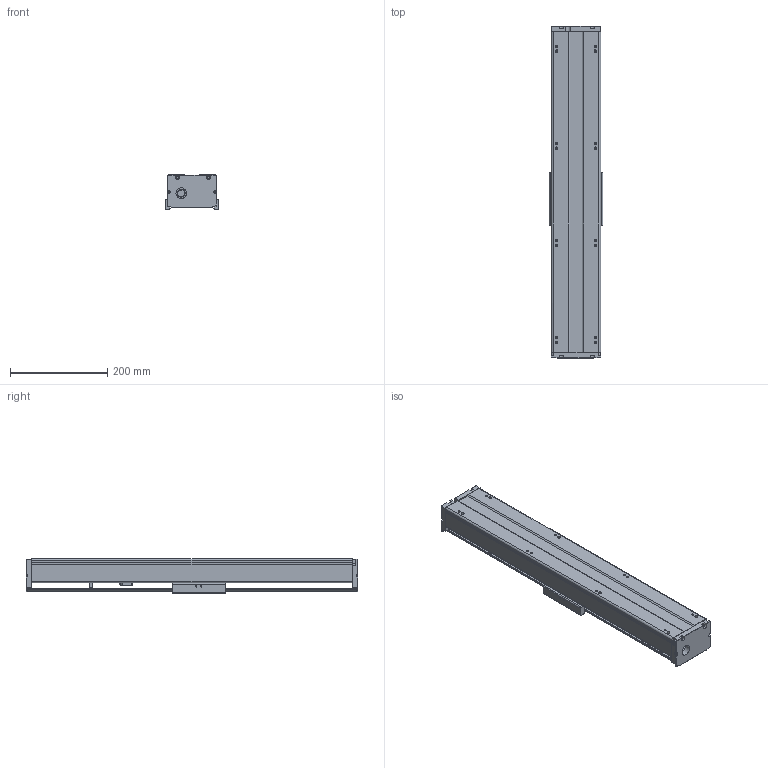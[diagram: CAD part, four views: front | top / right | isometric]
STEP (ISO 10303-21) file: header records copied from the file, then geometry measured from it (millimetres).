
FILE_DESCRIPTION(/* description */ (''),/* implementation_level */ '2;1');
FILE_NAME(/* name */ 'TKA100-300A1FI_asm1.stp',/* time_stamp */ '2017-02-21T08:22:09+08:00',/* author */ (''),/* organization */ (''),/* preprocessor_version */ 'ST-DEVELOPER v15',/* originating_system */ 'SIEMENS PLM Software NX 8.5',/* authorisation */ '');
FILE_SCHEMA (('AUTOMOTIVE_DESIGN { 1 0 10303 214 3 1 1 1 }'));
Length unit declared in the file: millimetre
Products named in the file (3): 200-02; 200-01; TKA100-300A1FI_asm1_stp
Assembly tree (2 placements, depth 2):
  TKA100-300A1FI_asm1_stp
    200-01
    200-02
Bounding box: 110 x 684 x 71 mm (x, y, z)
Volume: 1583968.5 mm3; surface area: 504915.7 mm2
Topology: 2 solids, 9 shells, 839 faces, 2160 edges, 1367 vertices
Faces by surface type: plane 355, cylinder 279, cone 145, torus 34, bspline 26
Full cylindrical faces by diameter (mm): 2.5 x4, 2.6 x8, 3.3 x8, 3.4 x4, 3.8 x4, 4.2 x17, 4.3 x4, 4.5 x4, 5 x1, 5.5 x20, 6.6 x4, 8 x5, 9 x4, 10 x8, 11 x4, 12 x7, 15.3 x1, 16 x1, 22 x1, 24 x1, 28 x5, 30 x1
Entity records: 29970 total; most frequent: CARTESIAN_POINT 10428, DIRECTION 4058, ORIENTED_EDGE 3810, EDGE_CURVE 1905, AXIS2_PLACEMENT_3D 1560, VERTEX_POINT 1300, EDGE_LOOP 1109, LINE 938
